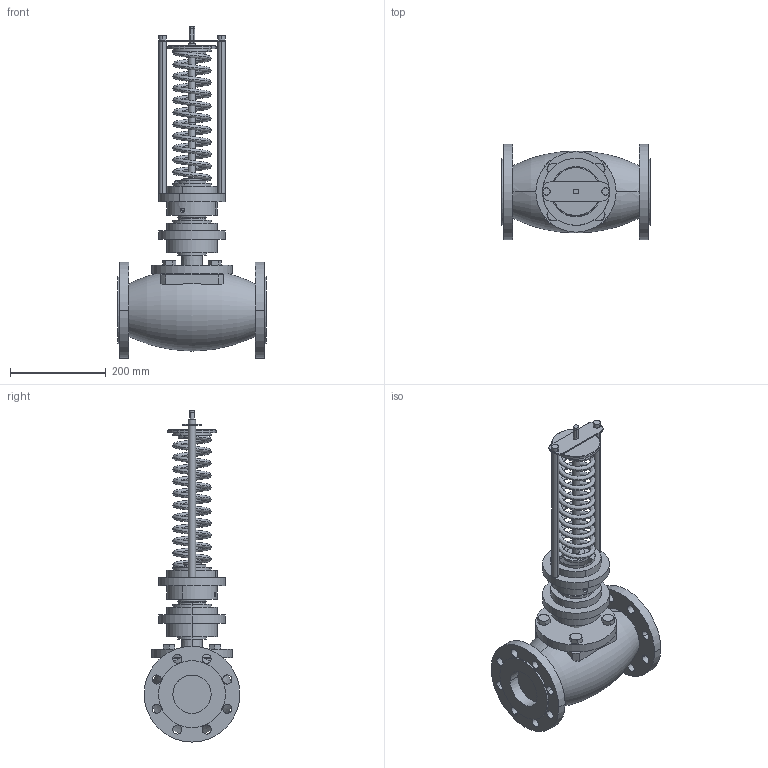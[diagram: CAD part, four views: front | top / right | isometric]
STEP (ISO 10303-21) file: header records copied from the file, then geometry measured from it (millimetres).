
FILE_DESCRIPTION (( 'STEP AP214' ), '1' );
FILE_NAME ('RDT, RDT-P DN-80 (0.1).STEP', '2025-12-12T07:21:06', ( '' ), ( '' ), 'SwSTEP 2.0', 'SolidWorks 2023', '' );
FILE_SCHEMA (( 'AUTOMOTIVE_DESIGN' ));
Length unit declared in the file: millimetre
Products named in the file (5): Деталь40^RDT, RDT-P DN-80 (0.1); RDT___ DN-15-100(0.1)_7.stp; RDT, RDT-P DN-80 (0.1).stp; RDT DN-80(______).stp; RDT, RDT-P DN-80 (0.1)
Assembly tree (4 placements, depth 3):
  RDT, RDT-P DN-80 (0.1)
    RDT, RDT-P DN-80 (0.1).stp
      RDT___ DN-15-100(0.1)_7.stp
      RDT DN-80(______).stp
    Деталь40^RDT, RDT-P DN-80 (0.1)
Bounding box: 310 x 200 x 694 mm (x, y, z)
Volume: 8173424.4 mm3; surface area: 585852.7 mm2
Topology: 3 solids, 3 shells, 256 faces, 616 edges, 396 vertices
Faces by surface type: cylinder 123, plane 91, cone 36, torus 4, bspline 2
Entity records: 12276 total; most frequent: CARTESIAN_POINT 5966, DIRECTION 1354, ORIENTED_EDGE 1232, EDGE_CURVE 616, AXIS2_PLACEMENT_3D 561, VERTEX_POINT 396, EDGE_LOOP 332, CIRCLE 299
